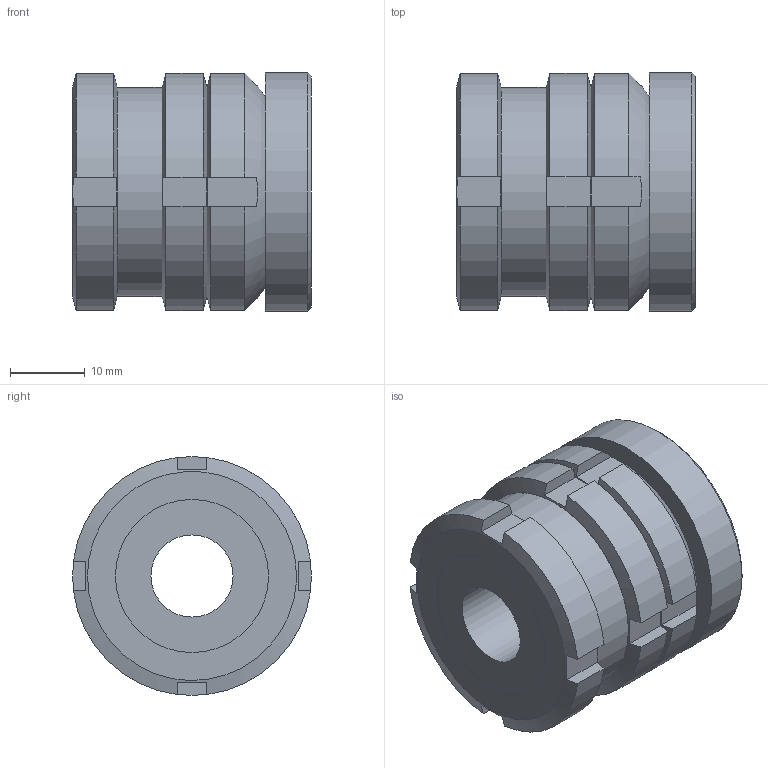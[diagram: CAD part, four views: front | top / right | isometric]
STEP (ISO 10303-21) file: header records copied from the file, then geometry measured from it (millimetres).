
FILE_DESCRIPTION( ( 'STEP AP203' ), '1' );
FILE_NAME( 'C:/Temp/Ganter_Step_05_03_2020/data/3_2/gn350_5/gn350_5_ni/Stainless Steel-Levelling set GN 350.5-32-11-32-NI (0-0).stp', '2020-03-13T05:28:47', ( 'License CC BY-ND 4.0' ), ( 'CADENAS' ), ' ', 'PARTsolutions', ' ' );
FILE_SCHEMA( ( 'CONFIG_CONTROL_DESIGN' ) );
Length unit declared in the file: millimetre
Products named in the file (5): Stainless Steel-Levelling set GN 350.5-32-11-32-NI (0-0); _Levelling set GN 350.5-32-11-32-ST-G; _Levelling set GN 350.5-32-11-32-ST-K; _Levelling set GN 350.5-32-11-32-ST-P(0); _Levelling set GN 350.5-32-11-32-ST-KM
Assembly tree (4 placements, depth 2):
  Stainless Steel-Levelling set GN 350.5-32-11-32-NI (0-0)
    _Levelling set GN 350.5-32-11-32-ST-G
    _Levelling set GN 350.5-32-11-32-ST-K
    _Levelling set GN 350.5-32-11-32-ST-P(0)
    _Levelling set GN 350.5-32-11-32-ST-KM
Bounding box: 32 x 32 x 32 mm (x, y, z)
Volume: 20409.3 mm3; surface area: 11408.5 mm2
Topology: 4 solids, 4 shells, 84 faces, 209 edges, 139 vertices
Faces by surface type: plane 50, cylinder 24, cone 8, sphere 2
Full cylindrical faces by diameter (mm): 11 x1, 15 x1, 16.473 x1, 17.5 x1, 18.917 x2, 20 x2, 20.5 x2, 28 x1, 32 x1
Entity records: 2676 total; most frequent: CARTESIAN_POINT 695, DIRECTION 364, ORIENTED_EDGE 354, EDGE_CURVE 177, AXIS2_PLACEMENT_3D 158, VERTEX_POINT 129, EDGE_LOOP 120, FACE_OUTER_BOUND 98
